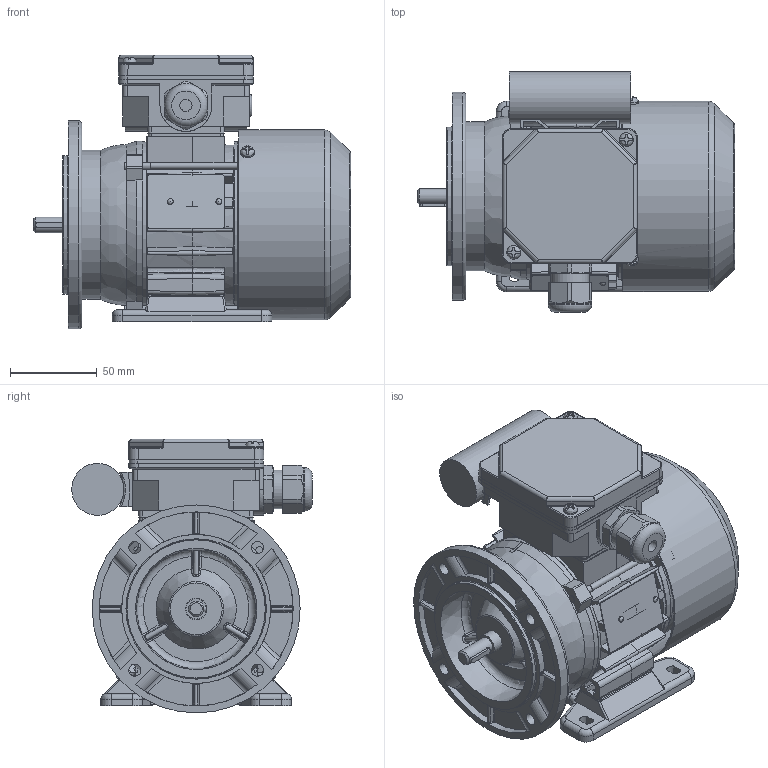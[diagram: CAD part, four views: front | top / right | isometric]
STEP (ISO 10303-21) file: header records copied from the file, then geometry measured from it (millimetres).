
FILE_DESCRIPTION( ( 'Unknown' ), '1' );
FILE_NAME( 'G:/Poczta Tk-1/STP/w.m.56/SEh56/SE(M)Lh56-A.stp', 'Unknown', ( 'K. Szlosek' ), ( 'BESEL S.A.' ), 'PSStep 17.0.49', 'Unknown', ' ' );
FILE_SCHEMA( ( 'AUTOMOTIVE_DESIGN { 1 0 10303 214 1 1 1 1 }' ) );
Length unit declared in the file: millimetre
Products named in the file (32): Assem1; K4-2320 Uszczelka nr 1 Sh71,80; K1-0512 Tarcza kołnierzowa B5  SKg56-..; K3-9987 kadłub ze stojanem Sh56-B; K3-2193 Tarcza łożyskowa P Sg56-2..; K3-9990 wał Sh56-B; K2-0860 Pokrywka skrzynki zaciskowej; Wpust A3x3x16; K4-2820 Uszczelka nr 2 Sh71,80; Wkręt samogwintujący M4x8; Wkręt samogwintujący M4x16; K2-0879 Przewietrznik Sg56; Nitokołek A 2x6; K3-9440 Podstawa  skrzynki zaciskowej SEhR71-D; K4-0898 Tulejka uszczelniająca; K3-1974 Uchwyt kondensatora (mały); Kondensator bb 8uF; K3-11363 Osłona przewietrznika Sh 56_A; K1-0484 Łapa Sg56-.. w. robocza; Śruba ściągająca E_M4x75; Tabliczka znamionowa 32x44; Łożysko 6201; Dławnica M20x1,5
Assembly tree (47 placements, depth 2):
  Assem1
    K4-2320 Uszczelka nr 1 Sh71,80
    K1-0512 Tarcza kołnierzowa B5  SKg56-..
    K3-9987 kadłub ze stojanem Sh56-B
    K3-2193 Tarcza łożyskowa P Sg56-2..
    K3-9990 wał Sh56-B
    K2-0860 Pokrywka skrzynki zaciskowej
    Wpust A3x3x16
    K4-2820 Uszczelka nr 2 Sh71,80
    Wkręt samogwintujący M4x8  x3
    Wkręt samogwintujący M4x16  x2
    K2-0879 Przewietrznik Sg56
    Nitokołek A 2x6  x2
    K3-9440 Podstawa  skrzynki zaciskowej SEhR71-D
    K4-0898 Tulejka uszczelniająca
    K3-1974 Uchwyt kondensatora (mały)
    Kondensator bb 8uF
    K3-11363 Osłona przewietrznika Sh 56_A
    K1-0484 Łapa Sg56-.. w. robocza
    Śruba ściągająca E_M4x75  x3
    Tabliczka znamionowa 32x44
    Łożysko 6201  x2
    Łożysko 6201  x2
    Łożysko 6201  x2
    Łożysko 6201  x2
    Łożysko 6201  x2
    Łożysko 6201  x2
    Łożysko 6201  x2
    Łożysko 6201  x2
    Łożysko 6201  x2
    Łożysko 6201  x2
    Dławnica M20x1,5
Bounding box: 183 x 138.82 x 158 mm (x, y, z)
Volume: 536380.8 mm3; surface area: 328689 mm2
Topology: 47 solids, 63 shells, 1988 faces, 5353 edges, 3457 vertices
Faces by surface type: plane 1014, cylinder 607, bspline 119, torus 110, cone 104, sphere 34
Full cylindrical faces by diameter (mm): 2 x2, 2.4 x2, 3 x1, 3.3 x3, 3.5 x2, 3.7 x10, 4 x8, 4.5 x4, 4.6 x2, 4.8 x4, 5 x4, 5.8 x4, 6.5 x1, 7 x8, 8 x6, 9 x1, 10 x2, 10.9 x1, 11 x1, 11.5 x1, 11.8 x2, 12 x4, 12.4 x2, 15.5 x1, 16 x1, 16.1 x1, 17 x2, 18 x1, 18.38 x1, 18.5 x1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
Entity records: 87240 total; most frequent: CARTESIAN_POINT 28030, ORIENTED_EDGE 9292, DIRECTION 9214, EDGE_CURVE 4646, AXIS2_PLACEMENT_3D 3402, VERTEX_POINT 3134, LINE 2410, VECTOR 2410
